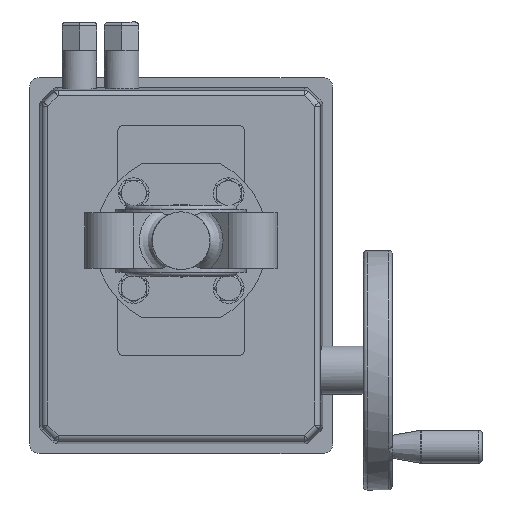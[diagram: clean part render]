
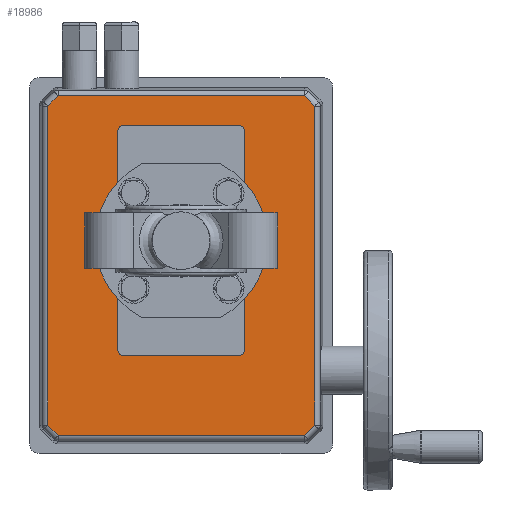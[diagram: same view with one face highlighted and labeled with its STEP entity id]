
A CAD part, front view. The second image highlights one B-rep face of the part: STEP entity #18986.
In plain terms, the highlighted planar face has unit normal (0, -1, 0).
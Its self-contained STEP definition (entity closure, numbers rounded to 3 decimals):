
#509 = VERTEX_POINT ( 'NONE', #6038 ) ;
#548 = LINE ( 'NONE', #23420, #8767 ) ;
#639 = ORIENTED_EDGE ( 'NONE', *, *, #9525, .T. ) ;
#718 = EDGE_CURVE ( 'NONE', #15905, #509, #5190, .T. ) ;
#760 = ORIENTED_EDGE ( 'NONE', *, *, #20811, .T. ) ;
#872 = CARTESIAN_POINT ( 'NONE',  ( -69.84, -45., -69.84 ) ) ;
#1380 = CIRCLE ( 'NONE', #9313, 3. ) ;
#1590 = ORIENTED_EDGE ( 'NONE', *, *, #15192, .T. ) ;
#1685 = DIRECTION ( 'NONE',  ( 0., 0., -1. ) ) ;
#1849 = DIRECTION ( 'NONE',  ( 0., 1., 0. ) ) ;
#1893 = LINE ( 'NONE', #27086, #9252 ) ;
#2198 = DIRECTION ( 'NONE',  ( 1., 0., 0. ) ) ;
#2339 = CARTESIAN_POINT ( 'NONE',  ( 57., -45., 33. ) ) ;
#2471 = ORIENTED_EDGE ( 'NONE', *, *, #3129, .T. ) ;
#2719 = ORIENTED_EDGE ( 'NONE', *, *, #11918, .T. ) ;
#2813 = EDGE_CURVE ( 'NONE', #7684, #12101, #11441, .T. ) ;
#2824 = DIRECTION ( 'NONE',  ( 0.707, 0., -0.707 ) ) ;
#2865 = DIRECTION ( 'NONE',  ( 0., 0., -1. ) ) ;
#3129 = EDGE_CURVE ( 'NONE', #7917, #26896, #10929, .T. ) ;
#3467 = ORIENTED_EDGE ( 'NONE', *, *, #23563, .T. ) ;
#3607 = DIRECTION ( 'NONE',  ( 0., 1., 0. ) ) ;
#3746 = CARTESIAN_POINT ( 'NONE',  ( -57., -45., 30. ) ) ;
#4071 = VECTOR ( 'NONE', #2824, 1000. ) ;
#4232 = DIRECTION ( 'NONE',  ( 0., 0., -1. ) ) ;
#4282 = ORIENTED_EDGE ( 'NONE', *, *, #16881, .F. ) ;
#4712 = DIRECTION ( 'NONE',  ( 0., 1., 0. ) ) ;
#4914 = DIRECTION ( 'NONE',  ( 0., 0., 1. ) ) ;
#5020 = AXIS2_PLACEMENT_3D ( 'NONE', #13465, #7289, #20092 ) ;
#5190 = LINE ( 'NONE', #24053, #13135 ) ;
#5637 = EDGE_CURVE ( 'NONE', #8864, #20601, #1893, .T. ) ;
#6035 = ORIENTED_EDGE ( 'NONE', *, *, #14704, .T. ) ;
#6038 = CARTESIAN_POINT ( 'NONE',  ( -60., -45., -30. ) ) ;
#6211 = CARTESIAN_POINT ( 'NONE',  ( 57., -45., 30. ) ) ;
#6273 = CARTESIAN_POINT ( 'NONE',  ( 60., -45., 0. ) ) ;
#6360 = LINE ( 'NONE', #18911, #7761 ) ;
#6440 = VERTEX_POINT ( 'NONE', #9727 ) ;
#6481 = DIRECTION ( 'NONE',  ( -0.707, 0., 0.707 ) ) ;
#6569 = DIRECTION ( 'NONE',  ( -0.707, 0., -0.707 ) ) ;
#6689 = AXIS2_PLACEMENT_3D ( 'NONE', #14490, #1849, #18651 ) ;
#6716 = CARTESIAN_POINT ( 'NONE',  ( -75.531, -45., -64.149 ) ) ;
#7047 = DIRECTION ( 'NONE',  ( 0., 0., 1. ) ) ;
#7180 = AXIS2_PLACEMENT_3D ( 'NONE', #3746, #3607, #27130 ) ;
#7205 = CIRCLE ( 'NONE', #5020, 3. ) ;
#7289 = DIRECTION ( 'NONE',  ( 0., 1., 0. ) ) ;
#7430 = EDGE_CURVE ( 'NONE', #26270, #509, #7205, .T. ) ;
#7488 = CARTESIAN_POINT ( 'NONE',  ( 96.149, -45., 69.531 ) ) ;
#7684 = VERTEX_POINT ( 'NONE', #7488 ) ;
#7761 = VECTOR ( 'NONE', #1685, 1000. ) ;
#7917 = VERTEX_POINT ( 'NONE', #26888 ) ;
#8179 = EDGE_CURVE ( 'NONE', #15905, #7917, #25647, .T. ) ;
#8767 = VECTOR ( 'NONE', #16954, 1000. ) ;
#8864 = VERTEX_POINT ( 'NONE', #16582 ) ;
#8984 = CARTESIAN_POINT ( 'NONE',  ( -57., -45., -33. ) ) ;
#9141 = CARTESIAN_POINT ( 'NONE',  ( 0., -45., 33. ) ) ;
#9252 = VECTOR ( 'NONE', #25018, 1000. ) ;
#9313 = AXIS2_PLACEMENT_3D ( 'NONE', #6211, #12804, #4914 ) ;
#9467 = CARTESIAN_POINT ( 'NONE',  ( 0., -45., -33. ) ) ;
#9494 = EDGE_CURVE ( 'NONE', #20037, #8864, #548, .T. ) ;
#9525 = EDGE_CURVE ( 'NONE', #20601, #7684, #25343, .T. ) ;
#9727 = CARTESIAN_POINT ( 'NONE',  ( 57., -45., -33. ) ) ;
#9852 = ORIENTED_EDGE ( 'NONE', *, *, #2813, .T. ) ;
#9930 = VECTOR ( 'NONE', #2198, 1000. ) ;
#10922 = CARTESIAN_POINT ( 'NONE',  ( 60., -45., 30. ) ) ;
#10929 = LINE ( 'NONE', #9141, #19831 ) ;
#10989 = ORIENTED_EDGE ( 'NONE', *, *, #7430, .T. ) ;
#11206 = CARTESIAN_POINT ( 'NONE',  ( 96.149, -45., -69.531 ) ) ;
#11441 = LINE ( 'NONE', #19714, #17958 ) ;
#11918 = EDGE_CURVE ( 'NONE', #19930, #20037, #22988, .T. ) ;
#12101 = VERTEX_POINT ( 'NONE', #17343 ) ;
#12597 = VERTEX_POINT ( 'NONE', #18349 ) ;
#12709 = EDGE_CURVE ( 'NONE', #12597, #13271, #6360, .T. ) ;
#12804 = DIRECTION ( 'NONE',  ( 0., 1., 0. ) ) ;
#13135 = VECTOR ( 'NONE', #2865, 1000. ) ;
#13271 = VERTEX_POINT ( 'NONE', #6716 ) ;
#13382 = CIRCLE ( 'NONE', #21755, 3. ) ;
#13465 = CARTESIAN_POINT ( 'NONE',  ( -57., -45., -30. ) ) ;
#14365 = ORIENTED_EDGE ( 'NONE', *, *, #9494, .T. ) ;
#14490 = CARTESIAN_POINT ( 'NONE',  ( 0., -45., 0. ) ) ;
#14704 = EDGE_CURVE ( 'NONE', #13271, #19930, #26349, .T. ) ;
#14936 = VERTEX_POINT ( 'NONE', #10922 ) ;
#15131 = EDGE_LOOP ( 'NONE', ( #16832, #21757, #2471, #1590, #3467, #24069, #4282, #10989 ) ) ;
#15145 = DIRECTION ( 'NONE',  ( -1., 0., 0. ) ) ;
#15192 = EDGE_CURVE ( 'NONE', #26896, #14936, #1380, .T. ) ;
#15905 = VERTEX_POINT ( 'NONE', #16207 ) ;
#16207 = CARTESIAN_POINT ( 'NONE',  ( -60., -45., 30. ) ) ;
#16582 = CARTESIAN_POINT ( 'NONE',  ( 101.531, -45., -64.149 ) ) ;
#16626 = VECTOR ( 'NONE', #6481, 1000. ) ;
#16633 = CARTESIAN_POINT ( 'NONE',  ( 0., -45., -69.531 ) ) ;
#16732 = LINE ( 'NONE', #6273, #18839 ) ;
#16832 = ORIENTED_EDGE ( 'NONE', *, *, #718, .F. ) ;
#16845 = FACE_OUTER_BOUND ( 'NONE', #27230, .T. ) ;
#16881 = EDGE_CURVE ( 'NONE', #26270, #6440, #19933, .T. ) ;
#16954 = DIRECTION ( 'NONE',  ( 0.707, 0., 0.707 ) ) ;
#17343 = CARTESIAN_POINT ( 'NONE',  ( -70.149, -45., 69.531 ) ) ;
#17370 = CARTESIAN_POINT ( 'NONE',  ( 82.84, -45., 82.84 ) ) ;
#17952 = LINE ( 'NONE', #26336, #26123 ) ;
#17958 = VECTOR ( 'NONE', #15145, 1000. ) ;
#18297 = ORIENTED_EDGE ( 'NONE', *, *, #5637, .T. ) ;
#18349 = CARTESIAN_POINT ( 'NONE',  ( -75.531, -45., 64.149 ) ) ;
#18651 = DIRECTION ( 'NONE',  ( 0., 0., 1. ) ) ;
#18657 = ORIENTED_EDGE ( 'NONE', *, *, #12709, .T. ) ;
#18661 = VECTOR ( 'NONE', #20069, 1000. ) ;
#18839 = VECTOR ( 'NONE', #4232, 1000. ) ;
#18911 = CARTESIAN_POINT ( 'NONE',  ( -75.531, -45., -65.349 ) ) ;
#18986 = ADVANCED_FACE ( 'NONE', ( #16845, #27035 ), #25105, .F. ) ;
#19452 = VERTEX_POINT ( 'NONE', #23156 ) ;
#19714 = CARTESIAN_POINT ( 'NONE',  ( -71.349, -45., 69.531 ) ) ;
#19831 = VECTOR ( 'NONE', #23990, 1000. ) ;
#19930 = VERTEX_POINT ( 'NONE', #24840 ) ;
#19933 = LINE ( 'NONE', #9467, #18661 ) ;
#19983 = CARTESIAN_POINT ( 'NONE',  ( 101.531, -45., 64.149 ) ) ;
#20037 = VERTEX_POINT ( 'NONE', #11206 ) ;
#20069 = DIRECTION ( 'NONE',  ( 1., 0., 0. ) ) ;
#20092 = DIRECTION ( 'NONE',  ( 0., 0., 1. ) ) ;
#20601 = VERTEX_POINT ( 'NONE', #19983 ) ;
#20811 = EDGE_CURVE ( 'NONE', #12101, #12597, #17952, .T. ) ;
#21146 = EDGE_CURVE ( 'NONE', #19452, #6440, #13382, .T. ) ;
#21644 = CARTESIAN_POINT ( 'NONE',  ( 57., -45., -30. ) ) ;
#21755 = AXIS2_PLACEMENT_3D ( 'NONE', #21644, #4712, #7047 ) ;
#21757 = ORIENTED_EDGE ( 'NONE', *, *, #8179, .T. ) ;
#22988 = LINE ( 'NONE', #16633, #9930 ) ;
#23156 = CARTESIAN_POINT ( 'NONE',  ( 60., -45., -30. ) ) ;
#23420 = CARTESIAN_POINT ( 'NONE',  ( 82.84, -45., -82.84 ) ) ;
#23563 = EDGE_CURVE ( 'NONE', #14936, #19452, #16732, .T. ) ;
#23990 = DIRECTION ( 'NONE',  ( 1., 0., 0. ) ) ;
#24053 = CARTESIAN_POINT ( 'NONE',  ( -60., -45., 0. ) ) ;
#24069 = ORIENTED_EDGE ( 'NONE', *, *, #21146, .T. ) ;
#24840 = CARTESIAN_POINT ( 'NONE',  ( -70.149, -45., -69.531 ) ) ;
#25018 = DIRECTION ( 'NONE',  ( 0., 0., 1. ) ) ;
#25105 = PLANE ( 'NONE',  #6689 ) ;
#25343 = LINE ( 'NONE', #17370, #16626 ) ;
#25647 = CIRCLE ( 'NONE', #7180, 3. ) ;
#26123 = VECTOR ( 'NONE', #6569, 1000. ) ;
#26270 = VERTEX_POINT ( 'NONE', #8984 ) ;
#26336 = CARTESIAN_POINT ( 'NONE',  ( -76.38, -45., 63.301 ) ) ;
#26349 = LINE ( 'NONE', #872, #4071 ) ;
#26888 = CARTESIAN_POINT ( 'NONE',  ( -57., -45., 33. ) ) ;
#26896 = VERTEX_POINT ( 'NONE', #2339 ) ;
#27035 = FACE_BOUND ( 'NONE', #15131, .T. ) ;
#27086 = CARTESIAN_POINT ( 'NONE',  ( 101.531, -45., 0. ) ) ;
#27130 = DIRECTION ( 'NONE',  ( 0., 0., 1. ) ) ;
#27230 = EDGE_LOOP ( 'NONE', ( #18657, #6035, #2719, #14365, #18297, #639, #9852, #760 ) ) ;
